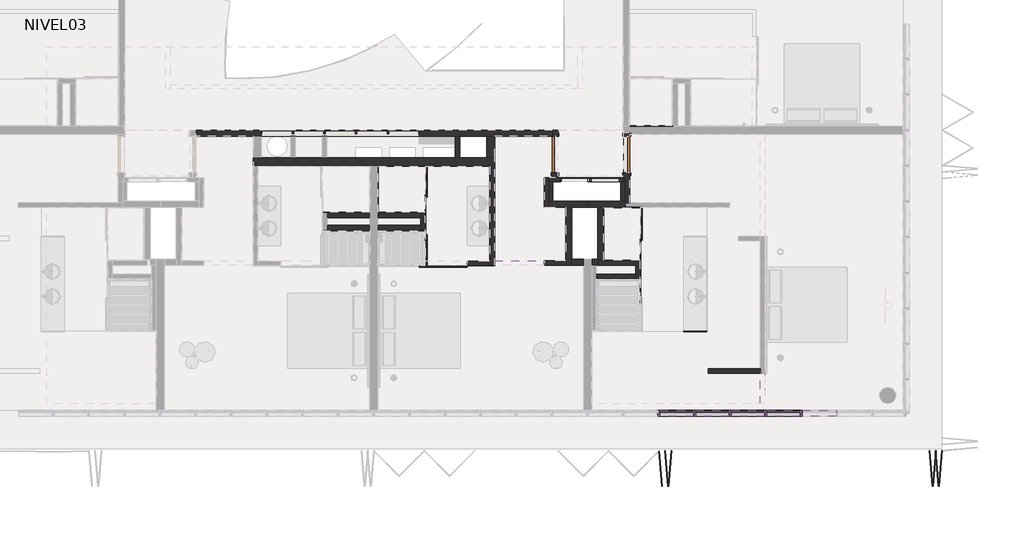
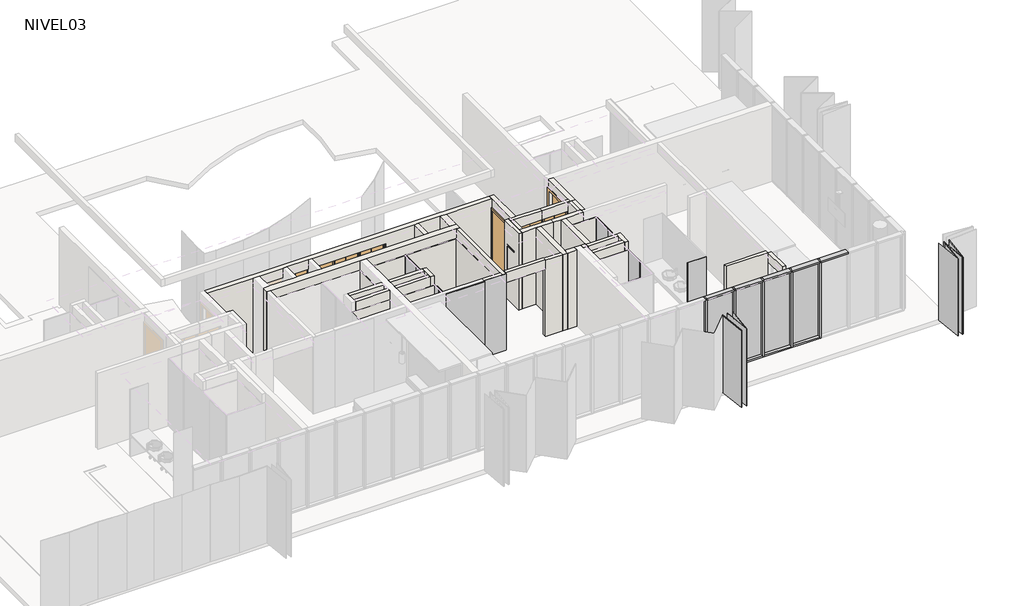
# One storey, part 3 of 8: 45 walls, 14 members, 13 plates, 8 doors.
"""IFC4 building model written with IfcOpenShell, lengths in millimetres."""

from ifc_helpers import new_model, si_unit, frame, origin, place, context, project, spatial, polyline, outline, extrude, faceted_brep, transform, mapped, element, save
from components import m_single_flush_910x_224_a4f79d59, m_single_flush_910x_224_d199ccfa, puerta_closet_shaft_75_x_232cm_9b8c6cb1, puerta_closet_shaft_75_x_232cm_f7ce9964, puerta_closet_shaft_80_x_232cm_003f94e8, rectangular_mullion_50_x_150mm_324a6438, rectangular_mullion_50_x_150mm_33c2bde1, folding_hd_folding_hd_85_4018a160, panel_corredera_cr_panel_corredera_e3ae9a5b, panel_corredera_cr_panel_corredera_0bc1c699, panel_corredera_cr_panel_corredera_7198288a, panel_corredera_cr_panel_corredera_8db39db7, system_panel_cr_shower_d400fda2, system_panel_cr_shower_4114597a, system_panel_cr_shower_ad642826, system_panel_cr_shower_33531463, system_panel_glazed_6ccc6dc1

model = new_model("IFC4")

# Units and contexts
model_context = context("Model", 3, world=origin())
ifc_project = project(units=[si_unit("LENGTHUNIT", "METRE", prefix="MILLI")], contexts=[model_context])

# Site, building, storey
site = spatial("IfcSite", under=ifc_project)
building = spatial("IfcBuilding", under=site)
storey = spatial("IfcBuildingStorey", under=building, Name="NIVEL03", Elevation=5220.0)

# Doors
placement = place(None, origin())
m_single_flush_910x_224_shape = m_single_flush_910x_224_a4f79d59(model_context)
element("IfcDoor", 1, ObjectType="M_Single-Flush : 910x 224", at=placement, inside=storey, context=model_context, shape_type="MappedRepresentation", body=[
    mapped(m_single_flush_910x_224_shape, transform((-2608.5934748, -883.5860759, 5220.0), x_axis=(0.0, 1.0, 0.0), y_axis=(-1.0, 0.0, 0.0), z_axis=(0.0, 0.0, 1.0))),
])
m_single_flush_910x_224_2_shape = m_single_flush_910x_224_d199ccfa(model_context)
element("IfcDoor", 2, ObjectType="M_Single-Flush : 910x 224", at=placement, inside=storey, context=model_context, shape_type="MappedRepresentation", body=[
    mapped(m_single_flush_910x_224_2_shape, transform((-798.5934748, -883.5860759, 5220.0), x_axis=(0.0, 1.0, 0.0), y_axis=(-1.0, 0.0, 0.0), z_axis=(0.0, 0.0, 1.0))),
])
puerta_closet_shaft_75_x_232cm_shape = puerta_closet_shaft_75_x_232cm_9b8c6cb1(model_context)
element("IfcDoor", 3, ObjectType="PUERTA CLOSET SHAFT : 75 x 232cm", at=placement, inside=storey, context=model_context, shape_type="MappedRepresentation", body=[
    mapped(puerta_closet_shaft_75_x_232cm_shape, transform((-947.061904, -1521.0860759, 5220.0), x_axis=(1.0, 0.0, 0.0), y_axis=(0.0, 1.0, 0.0), z_axis=(0.0, 0.0, 1.0))),
])
puerta_closet_shaft_75_x_232cm_2_shape = puerta_closet_shaft_75_x_232cm_f7ce9964(model_context)
element("IfcDoor", 4, ObjectType="PUERTA CLOSET SHAFT : 75 x 232cm", at=placement, inside=storey, context=model_context, shape_type="MappedRepresentation", body=[
    mapped(puerta_closet_shaft_75_x_232cm_2_shape, transform((-2480.1250457, -1521.0860759, 5220.0), x_axis=(-1.0, 0.0, 0.0), y_axis=(0.0, -1.0, 0.0), z_axis=(0.0, 0.0, 1.0))),
])
puerta_closet_shaft_80_x_232cm_shape = puerta_closet_shaft_80_x_232cm_003f94e8(model_context)
element("IfcDoor", 5, ObjectType="PUERTA CLOSET SHAFT : 80 x 232cm", at=placement, inside=storey, context=model_context, shape_type="MappedRepresentation", body=[
    mapped(puerta_closet_shaft_80_x_232cm_shape, transform((-6892.061904, -341.0860759, 5220.0), x_axis=(1.0, 0.0, 0.0), y_axis=(0.0, 1.0, 0.0), z_axis=(0.0, 0.0, 1.0))),
])
element("IfcDoor", 6, ObjectType="PUERTA CLOSET SHAFT : 80 x 232cm", at=placement, inside=storey, context=model_context, shape_type="MappedRepresentation", body=[
    mapped(puerta_closet_shaft_80_x_232cm_shape, transform((-7692.061904, -341.0860759, 5220.0), x_axis=(1.0, 0.0, 0.0), y_axis=(0.0, 1.0, 0.0), z_axis=(0.0, 0.0, 1.0))),
])
element("IfcDoor", 7, ObjectType="PUERTA CLOSET SHAFT : 80 x 232cm", at=placement, inside=storey, context=model_context, shape_type="MappedRepresentation", body=[
    mapped(puerta_closet_shaft_80_x_232cm_shape, transform((-6092.061904, -341.0860759, 5220.0), x_axis=(1.0, 0.0, 0.0), y_axis=(0.0, 1.0, 0.0), z_axis=(0.0, 0.0, 1.0))),
])
element("IfcDoor", 8, ObjectType="PUERTA CLOSET SHAFT : 80 x 232cm", at=placement, inside=storey, context=model_context, shape_type="MappedRepresentation", body=[
    mapped(puerta_closet_shaft_80_x_232cm_shape, transform((-5292.061904, -341.0860759, 5220.0), x_axis=(1.0, 0.0, 0.0), y_axis=(0.0, 1.0, 0.0), z_axis=(0.0, 0.0, 1.0))),
])

# Members
rectangular_mullion_50_x_150mm_shape = rectangular_mullion_50_x_150mm_324a6438(model_context)
element("IfcMember", 9, ObjectType="Rectangular Mullion : 50 x 150mm", at=placement, inside=storey, context=model_context, shape_type="MappedRepresentation", body=[
    mapped(rectangular_mullion_50_x_150mm_shape, transform((1841.4065252, -7416.0860759, 7770.0), x_axis=(0.0, 0.0, 1.0), y_axis=(0.0, 1.0, 0.0), z_axis=(-1.0, 0.0, 0.0))),
])
element("IfcMember", 10, ObjectType="Rectangular Mullion : 50 x 150mm", at=placement, inside=storey, context=model_context, shape_type="MappedRepresentation", body=[
    mapped(rectangular_mullion_50_x_150mm_shape, transform((941.4065252, -7416.0860759, 7770.0), x_axis=(0.0, 0.0, 1.0), y_axis=(0.0, 1.0, 0.0), z_axis=(-1.0, 0.0, 0.0))),
])
element("IfcMember", 11, ObjectType="Rectangular Mullion : 50 x 150mm", at=placement, inside=storey, context=model_context, shape_type="MappedRepresentation", body=[
    mapped(rectangular_mullion_50_x_150mm_shape, transform((41.4065252, -7416.0860759, 7770.0), x_axis=(0.0, 0.0, 1.0), y_axis=(0.0, 1.0, 0.0), z_axis=(-1.0, 0.0, 0.0))),
])
element("IfcMember", 12, ObjectType="Rectangular Mullion : 50 x 150mm", at=placement, inside=storey, context=model_context, shape_type="MappedRepresentation", body=[
    mapped(rectangular_mullion_50_x_150mm_shape, transform((3641.4065252, -7416.0860759, 7770.0), x_axis=(0.0, 0.0, 1.0), y_axis=(0.0, 1.0, 0.0), z_axis=(-1.0, 0.0, 0.0))),
])
element("IfcMember", 13, ObjectType="Rectangular Mullion : 50 x 150mm", at=placement, inside=storey, context=model_context, shape_type="MappedRepresentation", body=[
    mapped(rectangular_mullion_50_x_150mm_shape, transform((2741.4065252, -7416.0860759, 7770.0), x_axis=(0.0, 0.0, 1.0), y_axis=(0.0, 1.0, 0.0), z_axis=(-1.0, 0.0, 0.0))),
])
element("IfcMember", 14, ObjectType="Rectangular Mullion : 50 x 150mm", at=placement, inside=storey, context=model_context, shape_type="MappedRepresentation", body=[
    mapped(rectangular_mullion_50_x_150mm_shape, transform((1791.4065252, -7416.0860759, 5200.0), x_axis=(0.0, 0.0, -1.0), y_axis=(0.0, 1.0, 0.0), z_axis=(1.0, 0.0, 0.0))),
])
element("IfcMember", 15, ObjectType="Rectangular Mullion : 50 x 150mm", at=placement, inside=storey, context=model_context, shape_type="MappedRepresentation", body=[
    mapped(rectangular_mullion_50_x_150mm_shape, transform((891.4065252, -7416.0860759, 5200.0), x_axis=(0.0, 0.0, -1.0), y_axis=(0.0, 1.0, 0.0), z_axis=(1.0, 0.0, 0.0))),
])
element("IfcMember", 16, ObjectType="Rectangular Mullion : 50 x 150mm", at=placement, inside=storey, context=model_context, shape_type="MappedRepresentation", body=[
    mapped(rectangular_mullion_50_x_150mm_shape, transform((3591.4065252, -7416.0860759, 5200.0), x_axis=(0.0, 0.0, -1.0), y_axis=(0.0, 1.0, 0.0), z_axis=(1.0, 0.0, 0.0))),
])
element("IfcMember", 17, ObjectType="Rectangular Mullion : 50 x 150mm", at=placement, inside=storey, context=model_context, shape_type="MappedRepresentation", body=[
    mapped(rectangular_mullion_50_x_150mm_shape, transform((2691.4065252, -7416.0860759, 5200.0), x_axis=(0.0, 0.0, -1.0), y_axis=(0.0, 1.0, 0.0), z_axis=(1.0, 0.0, 0.0))),
])
rectangular_mullion_50_x_150mm_2_shape = rectangular_mullion_50_x_150mm_33c2bde1(model_context)
element("IfcMember", 18, ObjectType="Rectangular Mullion : 50 x 150mm", at=placement, inside=storey, context=model_context, shape_type="MappedRepresentation", body=[
    mapped(rectangular_mullion_50_x_150mm_2_shape, transform((1816.4065252, -7416.0860759, 5200.0), x_axis=(-1.0, 0.0, 0.0), y_axis=(0.0, 1.0, 0.0), z_axis=(0.0, 0.0, -1.0))),
])
element("IfcMember", 19, ObjectType="Rectangular Mullion : 50 x 150mm", at=placement, inside=storey, context=model_context, shape_type="MappedRepresentation", body=[
    mapped(rectangular_mullion_50_x_150mm_2_shape, transform((916.4065252, -7416.0860759, 5200.0), x_axis=(-1.0, 0.0, 0.0), y_axis=(0.0, 1.0, 0.0), z_axis=(0.0, 0.0, -1.0))),
])
element("IfcMember", 20, ObjectType="Rectangular Mullion : 50 x 150mm", at=placement, inside=storey, context=model_context, shape_type="MappedRepresentation", body=[
    mapped(rectangular_mullion_50_x_150mm_2_shape, transform((16.4065252, -7416.0860759, 5200.0), x_axis=(-1.0, 0.0, 0.0), y_axis=(0.0, 1.0, 0.0), z_axis=(0.0, 0.0, -1.0))),
])
element("IfcMember", 21, ObjectType="Rectangular Mullion : 50 x 150mm", at=placement, inside=storey, context=model_context, shape_type="MappedRepresentation", body=[
    mapped(rectangular_mullion_50_x_150mm_2_shape, transform((2716.4065252, -7416.0860759, 5200.0), x_axis=(-1.0, 0.0, 0.0), y_axis=(0.0, 1.0, 0.0), z_axis=(0.0, 0.0, -1.0))),
])
element("IfcMember", 22, ObjectType="Rectangular Mullion : 50 x 150mm", at=placement, inside=storey, context=model_context, shape_type="MappedRepresentation", body=[
    mapped(rectangular_mullion_50_x_150mm_2_shape, transform((3616.4065252, -7416.0860759, 5200.0), x_axis=(-1.0, 0.0, 0.0), y_axis=(0.0, 1.0, 0.0), z_axis=(0.0, 0.0, -1.0))),
])

# Plates
folding_hd_folding_hd_85_shape = folding_hd_folding_hd_85_4018a160(model_context)
element("IfcPlate", 23, ObjectType="FOLDING HD : FOLDING HD 85", at=placement, inside=storey, context=model_context, shape_type="MappedRepresentation", body=[
    mapped(folding_hd_folding_hd_85_shape, transform((3591.4065252, -8366.0860759, 5200.0), x_axis=(-1.0, 0.0, 0.0), y_axis=(0.0, -1.0, 0.0), z_axis=(0.0, 0.0, 1.0))),
])
panel_corredera_cr_panel_corredera_shape = panel_corredera_cr_panel_corredera_e3ae9a5b(model_context)
element("IfcPlate", 24, ObjectType="PANEL CORREDERA : CR_PANEL CORREDERA", at=placement, inside=storey, context=model_context, shape_type="MappedRepresentation", body=[
    mapped(panel_corredera_cr_panel_corredera_shape, transform((-453.5434748, -2560.8259695, 5220.0), x_axis=(0.0, -1.0, 0.0), y_axis=(1.0, 0.0, 0.0), z_axis=(0.0, 0.0, 1.0))),
])
panel_corredera_cr_panel_corredera_2_shape = panel_corredera_cr_panel_corredera_0bc1c699(model_context)
element("IfcPlate", 25, ObjectType="PANEL CORREDERA : CR_PANEL CORREDERA", at=placement, inside=storey, context=model_context, shape_type="MappedRepresentation", body=[
    mapped(panel_corredera_cr_panel_corredera_2_shape, transform((-5883.5921504, -3371.0862189, 5220.0), x_axis=(0.0, 1.0, 0.0), y_axis=(-1.0, 0.0, 0.0), z_axis=(0.0, 0.0, 1.0))),
])
panel_corredera_cr_panel_corredera_3_shape = panel_corredera_cr_panel_corredera_7198288a(model_context)
element("IfcPlate", 26, ObjectType="PANEL CORREDERA : CR_PANEL CORREDERA", at=placement, inside=storey, context=model_context, shape_type="MappedRepresentation", body=[
    mapped(panel_corredera_cr_panel_corredera_3_shape, transform((-5883.5921504, -1491.0860759, 5220.0), x_axis=(0.0, -1.0, 0.0), y_axis=(1.0, 0.0, 0.0), z_axis=(0.0, 0.0, 1.0))),
])
panel_corredera_cr_panel_corredera_4_shape = panel_corredera_cr_panel_corredera_8db39db7(model_context)
element("IfcPlate", 27, ObjectType="PANEL CORREDERA : CR_PANEL CORREDERA", at=placement, inside=storey, context=model_context, shape_type="MappedRepresentation", body=[
    mapped(panel_corredera_cr_panel_corredera_4_shape, transform((-5353.5934748, -3686.0862189, 5220.0), x_axis=(-1.0, 0.0, 0.0), y_axis=(0.0, -1.0, 0.0), z_axis=(0.0, 0.0, 1.0))),
])
system_panel_cr_shower_shape = system_panel_cr_shower_d400fda2(model_context)
element("IfcPlate", 28, ObjectType="System Panel : CR-SHOWER", at=placement, inside=storey, context=model_context, shape_type="MappedRepresentation", body=[
    mapped(system_panel_cr_shower_shape, transform((-4478.5934748, -3686.0862189, 5220.0), x_axis=(1.0, 0.0, 0.0), y_axis=(0.0, 1.0, 0.0), z_axis=(0.0, 0.0, 1.0))),
])
system_panel_cr_shower_2_shape = system_panel_cr_shower_4114597a(model_context)
element("IfcPlate", 29, ObjectType="System Panel : CR-SHOWER", at=placement, inside=storey, context=model_context, shape_type="MappedRepresentation", body=[
    mapped(system_panel_cr_shower_2_shape, transform((936.4065252, -5348.5862189, 5220.0), x_axis=(1.0, 0.0, 0.0), y_axis=(0.0, 1.0, 0.0), z_axis=(0.0, 0.0, 1.0))),
])
system_panel_cr_shower_3_shape = system_panel_cr_shower_ad642826(model_context)
element("IfcPlate", 30, ObjectType="System Panel : CR-SHOWER", at=placement, inside=storey, context=model_context, shape_type="MappedRepresentation", body=[
    mapped(system_panel_cr_shower_3_shape, transform((-453.5434748, -3776.2845441, 5220.0), x_axis=(0.0, 1.0, 0.0), y_axis=(-1.0, 0.0, 0.0), z_axis=(0.0, 0.0, 1.0))),
])
system_panel_cr_shower_4_shape = system_panel_cr_shower_33531463(model_context)
element("IfcPlate", 31, ObjectType="System Panel : CR-SHOWER", at=placement, inside=storey, context=model_context, shape_type="MappedRepresentation", body=[
    mapped(system_panel_cr_shower_4_shape, transform((-5883.5921504, -2436.0861474, 5220.0), x_axis=(0.0, 1.0, 0.0), y_axis=(-1.0, 0.0, 0.0), z_axis=(0.0, 0.0, 1.0))),
])
system_panel_glazed_shape = system_panel_glazed_6ccc6dc1(model_context)
element("IfcPlate", 32, ObjectType="System Panel : Glazed", at=placement, inside=storey, context=model_context, shape_type="MappedRepresentation", body=[
    mapped(system_panel_glazed_shape, transform((1366.4065252, -7416.0860759, 5250.0), x_axis=(-1.0, 0.0, 0.0), y_axis=(0.0, -1.0, 0.0), z_axis=(0.0, 0.0, 1.0))),
])
element("IfcPlate", 33, ObjectType="System Panel : Glazed", at=placement, inside=storey, context=model_context, shape_type="MappedRepresentation", body=[
    mapped(system_panel_glazed_shape, transform((466.4065252, -7416.0860759, 5250.0), x_axis=(-1.0, 0.0, 0.0), y_axis=(0.0, -1.0, 0.0), z_axis=(0.0, 0.0, 1.0))),
])
element("IfcPlate", 34, ObjectType="System Panel : Glazed", at=placement, inside=storey, context=model_context, shape_type="MappedRepresentation", body=[
    mapped(system_panel_glazed_shape, transform((2266.4065252, -7416.0860759, 5250.0), x_axis=(-1.0, 0.0, 0.0), y_axis=(0.0, -1.0, 0.0), z_axis=(0.0, 0.0, 1.0))),
])
element("IfcPlate", 35, ObjectType="System Panel : Glazed", at=placement, inside=storey, context=model_context, shape_type="MappedRepresentation", body=[
    mapped(system_panel_glazed_shape, transform((3166.4065252, -7416.0860759, 5250.0), x_axis=(-1.0, 0.0, 0.0), y_axis=(0.0, -1.0, 0.0), z_axis=(0.0, 0.0, 1.0))),
])

# Walls
element("IfcWall", 36, ObjectType="SCV.TI.A.110.090.143.47.1", at=placement, inside=storey, context=model_context, shape_type="SweptSolid", body=[
    extrude(outline(polyline([(-2333.5934748, -3681.0862189), (-2883.5934748, -3681.0862189), (-2883.5934748, -3571.0862189), (-2333.5934748, -3571.0862189), (-2333.5934748, -3681.0862189)])), frame((0.0, 0.0, 5220.0), z_axis=(0.0, 0.0, 1.0), x_axis=(1.0, 0.0, 0.0)), (0.0, 0.0, 1.0), 2550.0),
])
element("IfcWall", 37, ObjectType="SCV.TI.A.110.090.143.47.1", at=placement, inside=storey, context=model_context, shape_type="Brep", body=[
    faceted_brep([(-1778.029983, -1576.0860759, 7770.0), (-2773.5934748, -1576.0860759, 7770.0), (-2773.5934748, -1576.0860759, 5220.0), (-2463.5934748, -1576.0860759, 5220.0), (-2463.5934748, -1576.0860759, 7460.0), (-1778.029983, -1576.0860759, 7460.0), (-2773.5934748, -1466.0860759, 7770.0), (-2683.5934748, -1466.0860759, 7770.0), (-2533.5934748, -1466.0860759, 7770.0), (-1778.029983, -1466.0860759, 7770.0), (-1778.029983, -1466.0860759, 7460.0), (-2463.5934748, -1466.0860759, 7460.0), (-2463.5934748, -1466.0860759, 5220.0), (-2533.5934748, -1466.0860759, 5220.0), (-2683.5934748, -1466.0860759, 5220.0), (-2773.5934748, -1466.0860759, 5220.0)], [[[0, 1, 2, 3, 4, 5]], [[6, 7, 8, 9, 10, 11, 12, 13, 14, 15]], [[2, 15, 14, 13, 12, 3]], [[9, 0, 5, 10]], [[1, 0, 9, 8, 7, 6]], [[4, 11, 10, 5]], [[11, 4, 3, 12]], [[2, 1, 6, 15]]]),
])
element("IfcWall", 38, ObjectType="SCV.TI.A.150.120.212.47.1", at=placement, inside=storey, context=model_context, shape_type="Brep", body=[
    faceted_brep([(-2683.5934748, -1466.0860759, 7770.0), (-2683.5934748, -416.0860759, 7770.0), (-2683.5934748, -266.0860759, 7770.0), (-2683.5934748, -266.0860759, 5220.0), (-2683.5934748, -426.0860759, 5220.0), (-2683.5934748, -426.0860759, 7420.0), (-2683.5934748, -1341.0860759, 7420.0), (-2683.5934748, -1341.0860759, 5220.0), (-2683.5934748, -1466.0860759, 5220.0), (-2533.5934748, -266.0860759, 7770.0), (-2533.5934748, -1466.0860759, 7770.0), (-2533.5934748, -1466.0860759, 5220.0), (-2533.5934748, -1341.0860759, 5220.0), (-2533.5934748, -1341.0860759, 7420.0), (-2533.5934748, -426.0860759, 7420.0), (-2533.5934748, -426.0860759, 5220.0), (-2533.5934748, -266.0860759, 5220.0)], [[[0, 1, 2, 3, 4, 5, 6, 7, 8]], [[9, 10, 11, 12, 13, 14, 15, 16]], [[3, 16, 15, 4]], [[11, 8, 7, 12]], [[2, 1, 0, 10, 9]], [[5, 14, 13, 6]], [[6, 13, 12, 7]], [[14, 5, 4, 15]], [[3, 2, 9, 16]], [[0, 8, 11, 10]]]),
])
element("IfcWall", 39, ObjectType="SCV.TI.A.110.090.143.47.1", at=placement, inside=storey, context=model_context, shape_type="Brep", body=[
    faceted_brep([(-4243.5934748, -1166.0860759, 5200.0), (-4243.5934748, -3686.0862189, 5200.0), (-4243.5934748, -3686.0862189, 5220.0), (-4243.5934748, -3686.0862189, 7770.0), (-4243.5934748, -3576.0862189, 7770.0), (-4243.5934748, -1166.0860759, 7770.0), (-4133.5934748, -1166.0860759, 5200.0), (-4133.5934748, -1166.0860759, 7770.0), (-4133.5934748, -3686.0862189, 7770.0), (-4133.5934748, -3686.0862189, 7470.0), (-4133.5934748, -3686.0862189, 5200.0)], [[[0, 1, 2, 3, 4, 5]], [[6, 7, 8, 9, 10]], [[1, 0, 6, 10]], [[5, 4, 3, 8, 7]], [[1, 10, 9, 8, 3, 2]], [[0, 5, 7, 6]]]),
])
element("IfcWall", 40, ObjectType="SCV.TI.A.150.120.212.47.1", at=placement, inside=storey, context=model_context, shape_type="Brep", body=[
    faceted_brep([(-11683.5934748, -416.0860759, 5200.0), (-10233.5934748, -416.0860759, 5200.0), (-10033.5934748, -416.0860759, 5200.0), (-9283.5934748, -416.0860759, 5200.0), (-9173.5934748, -416.0860759, 5200.0), (-8483.5934748, -416.0860759, 5200.0), (-8373.5934748, -416.0860759, 5200.0), (-5133.5934748, -416.0860759, 5200.0), (-5013.5934748, -416.0860759, 5200.0), (-4333.5934748, -416.0860759, 5200.0), (-4133.5934748, -416.0860759, 5200.0), (-2683.5934748, -416.0860759, 5200.0), (-2683.5934748, -416.0860759, 7770.0), (-4133.5934748, -416.0860759, 7770.0), (-4333.5934748, -416.0860759, 7770.0), (-5013.5934748, -416.0860759, 7770.0), (-5133.5934748, -416.0860759, 7770.0), (-8373.5934748, -416.0860759, 7770.0), (-8483.5934748, -416.0860759, 7770.0), (-9173.5934748, -416.0860759, 7770.0), (-9283.5934748, -416.0860759, 7770.0), (-10033.5934748, -416.0860759, 7770.0), (-10233.5934748, -416.0860759, 7770.0), (-11683.5934748, -416.0860759, 7770.0), (-6033.5934748, -416.0860759, 5220.0), (-10033.5934748, -416.0860759, 5220.0), (-10033.5934748, -416.0860759, 7440.0), (-6033.5934748, -416.0860759, 7440.0), (-2683.5934748, -266.0860759, 5200.0), (-11683.5934748, -266.0860759, 5200.0), (-11683.5934748, -266.0860759, 5220.0), (-11683.5934748, -266.0860759, 7770.0), (-2683.5934748, -266.0860759, 7770.0), (-2683.5934748, -266.0860759, 5220.0), (-6033.5934748, -266.0860759, 7440.0), (-10033.5934748, -266.0860759, 7440.0), (-10033.5934748, -266.0860759, 5220.0), (-6033.5934748, -266.0860759, 5220.0)], [[[0, 1, 2, 3, 4, 5, 6, 7, 8, 9, 10, 11, 12, 13, 14, 15, 16, 17, 18, 19, 20, 21, 22, 23], [24, 25, 26, 27]], [[28, 29, 30, 31, 32, 33], [34, 35, 36, 37]], [[11, 10, 9, 8, 7, 6, 5, 4, 3, 2, 1, 0, 29, 28]], [[23, 22, 21, 20, 19, 18, 17, 16, 15, 14, 13, 12, 32, 31]], [[26, 35, 34, 27]], [[36, 25, 24, 37]], [[25, 36, 35, 26]], [[37, 24, 27, 34]], [[12, 11, 28, 33, 32]], [[0, 23, 31, 30, 29]]]),
])
element("IfcWall", 41, ObjectType="SCV.TI.A.150.120.212.47.1", at=placement, inside=storey, context=model_context, shape_type="Brep", body=[
    faceted_brep([(-2773.5934748, -2216.0860759, 5220.0), (-2333.5934748, -2216.0860759, 5220.0), (-2183.5934748, -2216.0860759, 5220.0), (-1783.5934748, -2216.0860759, 5220.0), (-1783.5934748, -2216.0860759, 7770.0), (-2183.5934748, -2216.0860759, 7770.0), (-2333.5934748, -2216.0860759, 7770.0), (-2773.5934748, -2216.0860759, 7770.0), (-2773.5934748, -2066.0860759, 5220.0), (-2773.5934748, -2066.0860759, 7770.0), (-1783.5934748, -2066.0860759, 7770.0), (-1783.5934748, -2066.0860759, 5220.0)], [[[0, 1, 2, 3, 4, 5, 6, 7]], [[8, 9, 10, 11]], [[3, 2, 1, 0, 8, 11]], [[4, 3, 11, 10]], [[7, 6, 5, 4, 10, 9]], [[0, 7, 9, 8]]]),
])
element("IfcWall", 42, ObjectType="SCV.TI.A.110.090.143.47.1", at=placement, inside=storey, context=model_context, shape_type="Brep", body=[
    faceted_brep([(-2883.5934748, -1466.0860759, 5200.0), (-2883.5934748, -2216.0860759, 5200.0), (-2883.5934748, -2216.0860759, 7770.0), (-2883.5934748, -1466.0860759, 7770.0), (-2773.5934748, -1466.0860759, 5200.0), (-2773.5934748, -1466.0860759, 5220.0), (-2773.5934748, -1466.0860759, 7770.0), (-2773.5934748, -1576.0860759, 7770.0), (-2773.5934748, -2066.0860759, 7770.0), (-2773.5934748, -2216.0860759, 7770.0), (-2773.5934748, -2216.0860759, 5220.0), (-2773.5934748, -2216.0860759, 5200.0)], [[[0, 1, 2, 3]], [[4, 5, 6, 7, 8, 9, 10, 11]], [[1, 0, 4, 11]], [[3, 2, 9, 8, 7, 6]], [[2, 1, 11, 10, 9]], [[0, 3, 6, 5, 4]]]),
])
element("IfcWall", 43, ObjectType="SCV.TI.A.120.120.122.46.2", at=placement, inside=storey, context=model_context, shape_type="SweptSolid", body=[
    extrude(outline(polyline([(-6003.6822103, -2796.0860759), (-7083.5934748, -2796.0860759), (-7083.5934748, -2676.0860759), (-6003.6822103, -2676.0860759), (-6003.6822103, -2796.0860759)])), frame((0.0, 0.0, 5220.0), z_axis=(0.0, 0.0, 1.0), x_axis=(1.0, 0.0, 0.0)), (0.0, 0.0, 1.0), 2550.0),
])
element("IfcWall", 44, ObjectType="SCV.TI.A.120.120.122.46.2", at=placement, inside=storey, context=model_context, shape_type="Brep", body=[
    faceted_brep([(-5883.6822103, -2796.0860759, 5220.0), (-5883.6822103, -2356.0860759, 5220.0), (-5883.6822103, -2356.0860759, 7770.0), (-5883.6822103, -2796.0860759, 7770.0), (-6003.6822103, -2796.0860759, 5220.0), (-6003.6822103, -2796.0860759, 7770.0), (-6003.6822103, -2676.0860759, 7770.0), (-6003.6822103, -2476.0860759, 7770.0), (-6003.6822103, -2356.0860759, 7770.0), (-6003.6822103, -2356.0860759, 5220.0), (-6003.6822103, -2476.0860759, 5220.0), (-6003.6822103, -2676.0860759, 5220.0)], [[[0, 1, 2, 3]], [[4, 5, 6, 7, 8, 9, 10, 11]], [[1, 0, 4, 11, 10, 9]], [[3, 2, 8, 7, 6, 5]], [[2, 1, 9, 8]], [[0, 3, 5, 4]]]),
])
element("IfcWall", 45, ObjectType="SCV.TI.A.120.120.122.46.2", at=placement, inside=storey, context=model_context, shape_type="SweptSolid", body=[
    extrude(outline(polyline([(-7083.5934748, -2356.0860759), (-6003.6822103, -2356.0860759), (-6003.6822103, -2476.0860759), (-7083.5934748, -2476.0860759), (-7083.5934748, -2356.0860759)])), frame((0.0, 0.0, 5220.0), z_axis=(0.0, 0.0, 1.0), x_axis=(1.0, 0.0, 0.0)), (0.0, 0.0, 1.0), 2550.0),
])
element("IfcWall", 46, ObjectType="SCV.TI.A.110.090.143.47.1", at=placement, inside=storey, context=model_context, shape_type="Brep", body=[
    faceted_brep([(-4823.5934748, -3686.0862189, 5220.0), (-4243.5934748, -3686.0862189, 5220.0), (-4243.5934748, -3686.0862189, 7770.0), (-4823.5934748, -3686.0862189, 7770.0), (-4823.5934748, -3686.0862189, 7470.0), (-4823.5934748, -3576.0862189, 5220.0), (-4823.5934748, -3576.0862189, 7770.0), (-4243.5934748, -3576.0862189, 7770.0), (-4243.5934748, -3576.0862189, 5220.0)], [[[0, 1, 2, 3, 4]], [[5, 6, 7, 8]], [[1, 0, 5, 8]], [[3, 2, 7, 6]], [[0, 4, 3, 6, 5]], [[1, 8, 7, 2]]]),
])
element("IfcWall", 47, ObjectType="REV-PORCELANATO_60*60", at=placement, inside=storey, context=model_context, shape_type="Brep", body=[
    faceted_brep([(-4823.5934748, -3596.0862189, 5220.0), (-4243.5934748, -3596.0862189, 5220.0), (-4243.5934748, -3596.0862189, 7460.0), (-4823.5934748, -3596.0862189, 7460.0), (-4823.5934748, -3586.0862189, 5220.0), (-4823.5934748, -3586.0862189, 7460.0), (-4253.5934748, -3586.0862189, 7460.0), (-4243.5934748, -3586.0862189, 7460.0), (-4243.5934748, -3586.0862189, 5220.0), (-4253.5934748, -3586.0862189, 5220.0)], [[[0, 1, 2, 3]], [[4, 5, 6, 7, 8, 9]], [[1, 0, 4, 9, 8]], [[3, 2, 7, 6, 5]], [[0, 3, 5, 4]], [[2, 1, 8, 7]]]),
])
element("IfcWall", 48, ObjectType="REV-PORCELANATO_60*60", at=placement, inside=storey, context=model_context, shape_type="Brep", body=[
    faceted_brep([(-4243.5934748, -3586.0862189, 5220.0), (-4243.5934748, -1166.0860759, 5220.0), (-4243.5934748, -1166.0860759, 7460.0), (-4243.5934748, -3586.0862189, 7460.0), (-4253.5934748, -3586.0862189, 5220.0), (-4253.5934748, -3586.0862189, 7460.0), (-4253.5934748, -1176.0860759, 7460.0), (-4253.5934748, -1166.0860759, 7460.0), (-4253.5934748, -1166.0860759, 5220.0), (-4253.5934748, -1176.0860759, 5220.0)], [[[0, 1, 2, 3]], [[4, 5, 6, 7, 8, 9]], [[1, 0, 4, 9, 8]], [[3, 2, 7, 6, 5]], [[2, 1, 8, 7]], [[0, 3, 5, 4]]]),
])
element("IfcWall", 49, ObjectType="REV-PORCELANATO_60*60", at=placement, inside=storey, context=model_context, shape_type="Brep", body=[
    faceted_brep([(-4253.5934748, -1166.0860759, 5220.0), (-7083.5934748, -1166.0860759, 5220.0), (-7083.5934748, -1166.0860759, 7460.0), (-4253.5934748, -1166.0860759, 7460.0), (-4253.5934748, -1176.0860759, 5220.0), (-4253.5934748, -1176.0860759, 7460.0), (-7073.5934748, -1176.0860759, 7460.0), (-7083.5934748, -1176.0860759, 7460.0), (-7083.5934748, -1176.0860759, 5220.0), (-7073.5934748, -1176.0860759, 5220.0)], [[[0, 1, 2, 3]], [[4, 5, 6, 7, 8, 9]], [[1, 0, 4, 9, 8]], [[3, 2, 7, 6, 5]], [[2, 1, 8, 7]], [[0, 3, 5, 4]]]),
])
element("IfcWall", 50, ObjectType="REV-PORCELANATO_60*60", at=placement, inside=storey, context=model_context, shape_type="Brep", body=[
    faceted_brep([(-7083.5934748, -1176.0860759, 5220.0), (-7083.5934748, -2356.0860759, 5220.0), (-7083.5934748, -2356.0860759, 7460.0), (-7083.5934748, -1176.0860759, 7460.0), (-7073.5934748, -1176.0860759, 5220.0), (-7073.5934748, -1176.0860759, 7460.0), (-7073.5934748, -2346.0860759, 7460.0), (-7073.5934748, -2356.0860759, 7460.0), (-7073.5934748, -2356.0860759, 5220.0), (-7073.5934748, -2346.0860759, 5220.0)], [[[0, 1, 2, 3]], [[4, 5, 6, 7, 8, 9]], [[1, 0, 4, 9, 8]], [[3, 2, 7, 6, 5]], [[2, 1, 8, 7]], [[0, 3, 5, 4]]]),
])
element("IfcWall", 51, ObjectType="REV-PORCELANATO_60*60", at=placement, inside=storey, context=model_context, shape_type="SweptSolid", body=[
    extrude(outline(polyline([(-5883.5921504, -2356.0860759), (-7073.5934748, -2356.0860759), (-7073.5934748, -2346.0860759), (-5883.5921504, -2346.0860759), (-5883.5921504, -2356.0860759)])), frame((0.0, 0.0, 5220.0), z_axis=(0.0, 0.0, 1.0), x_axis=(1.0, 0.0, 0.0)), (0.0, 0.0, 1.0), 2240.0),
])
element("IfcWall", 52, ObjectType="REV-PORCELANATO_60*60", at=placement, inside=storey, context=model_context, shape_type="Brep", body=[
    faceted_brep([(-5883.5921504, -2796.0860759, 5220.0), (-7083.5934748, -2796.0860759, 5220.0), (-7083.5934748, -2796.0860759, 7460.0), (-5883.5921504, -2796.0860759, 7460.0), (-5883.5921504, -2806.0860759, 5220.0), (-5883.5921504, -2806.0860759, 7460.0), (-7073.5934748, -2806.0860759, 7460.0), (-7083.5934748, -2806.0860759, 7460.0), (-7083.5934748, -2806.0860759, 5220.0), (-7073.5934748, -2806.0860759, 5220.0)], [[[0, 1, 2, 3]], [[4, 5, 6, 7, 8, 9]], [[1, 0, 4, 9, 8]], [[3, 2, 7, 6, 5]], [[0, 3, 5, 4]], [[2, 1, 8, 7]]]),
])
element("IfcWall", 53, ObjectType="SCV.TI.A.120.120.122.46.2", at=placement, inside=storey, context=model_context, shape_type="SweptSolid", body=[
    extrude(outline(polyline([(-8363.5047394, -2676.0860759), (-7283.5934748, -2676.0860759), (-7283.5934748, -2796.0860759), (-8363.5047394, -2796.0860759), (-8363.5047394, -2676.0860759)])), frame((0.0, 0.0, 5220.0), z_axis=(0.0, 0.0, 1.0), x_axis=(1.0, 0.0, 0.0)), (0.0, 0.0, 1.0), 2550.0),
])
element("IfcWall", 54, ObjectType="SCV.TI.A.120.120.122.46.2", at=placement, inside=storey, context=model_context, shape_type="SweptSolid", body=[
    extrude(outline(polyline([(-7283.5934748, -2476.0860759), (-8363.5047394, -2476.0860759), (-8363.5047394, -2356.0860759), (-7283.5934748, -2356.0860759), (-7283.5934748, -2476.0860759)])), frame((0.0, 0.0, 5220.0), z_axis=(0.0, 0.0, 1.0), x_axis=(1.0, 0.0, 0.0)), (0.0, 0.0, 1.0), 2550.0),
])
element("IfcWall", 55, ObjectType="REV-PORCELANATO_60*60", at=placement, inside=storey, context=model_context, shape_type="Brep", body=[
    faceted_brep([(-7293.5934748, -1176.0860759, 5220.0), (-7293.5934748, -2346.0860759, 5220.0), (-7293.5934748, -2356.0860759, 5220.0), (-7293.5934748, -2356.0860759, 7460.0), (-7293.5934748, -2346.0860759, 7460.0), (-7293.5934748, -1176.0860759, 7460.0), (-7283.5934748, -1176.0860759, 5220.0), (-7283.5934748, -1176.0860759, 7460.0), (-7283.5934748, -2356.0860759, 7460.0), (-7283.5934748, -2356.0860759, 5220.0)], [[[0, 1, 2, 3, 4, 5]], [[6, 7, 8, 9]], [[2, 1, 0, 6, 9]], [[5, 4, 3, 8, 7]], [[3, 2, 9, 8]], [[0, 5, 7, 6]]]),
])
element("IfcWall", 56, ObjectType="REV-PORCELANATO_60*60", at=placement, inside=storey, context=model_context, shape_type="SweptSolid", body=[
    extrude(outline(polyline([(-8483.5947993, -2346.0860759), (-7293.5934748, -2346.0860759), (-7293.5934748, -2356.0860759), (-8483.5947993, -2356.0860759), (-8483.5947993, -2346.0860759)])), frame((0.0, 0.0, 5220.0), z_axis=(0.0, 0.0, 1.0), x_axis=(1.0, 0.0, 0.0)), (0.0, 0.0, 1.0), 2240.0),
])
element("IfcWall", 57, ObjectType="REV-PORCELANATO_60*60", at=placement, inside=storey, context=model_context, shape_type="Brep", body=[
    faceted_brep([(-8483.5947993, -2806.0860759, 5220.0), (-7293.5934748, -2806.0860759, 5220.0), (-7283.5934748, -2806.0860759, 5220.0), (-7283.5934748, -2806.0860759, 7460.0), (-7293.5934748, -2806.0860759, 7460.0), (-8483.5947993, -2806.0860759, 7460.0), (-8483.5947993, -2796.0860759, 5220.0), (-8483.5947993, -2796.0860759, 7460.0), (-7283.5934748, -2796.0860759, 7460.0), (-7283.5934748, -2796.0860759, 5220.0)], [[[0, 1, 2, 3, 4, 5]], [[6, 7, 8, 9]], [[2, 1, 0, 6, 9]], [[5, 4, 3, 8, 7]], [[0, 5, 7, 6]], [[3, 2, 9, 8]]]),
])
element("IfcWall", 58, ObjectType="SCV.TI.A.120.120.122.46.2", at=placement, inside=storey, context=model_context, shape_type="SweptSolid", body=[
    extrude(outline(polyline([(-573.5934748, -4026.0862189), (-1563.5934748, -4026.0862189), (-1563.5934748, -3906.0862189), (-573.5934748, -3906.0862189), (-573.5934748, -4026.0862189)])), frame((0.0, 0.0, 5200.0), z_axis=(0.0, 0.0, 1.0), x_axis=(1.0, 0.0, 0.0)), (0.0, 0.0, 1.0), 2570.0),
])
element("IfcWall", 59, ObjectType="SCV.TI.A.120.120.122.46.2", at=placement, inside=storey, context=model_context, shape_type="Brep", body=[
    faceted_brep([(-453.5934748, -4026.0862189, 5200.0), (-453.5934748, -3566.0862189, 5200.0), (-453.5934748, -3566.0862189, 7770.0), (-453.5934748, -4026.0862189, 7770.0), (-573.5934748, -4026.0862189, 5200.0), (-573.5934748, -4026.0862189, 7770.0), (-573.5934748, -3906.0862189, 7770.0), (-573.5934748, -3686.0862189, 7770.0), (-573.5934748, -3566.0862189, 7770.0), (-573.5934748, -3566.0862189, 5200.0), (-573.5934748, -3686.0862189, 5200.0), (-573.5934748, -3906.0862189, 5200.0)], [[[0, 1, 2, 3]], [[4, 5, 6, 7, 8, 9, 10, 11]], [[1, 0, 4, 11, 10, 9]], [[3, 2, 8, 7, 6, 5]], [[2, 1, 9, 8]], [[0, 3, 5, 4]]]),
])
element("IfcWall", 60, ObjectType="SCV.TI.A.120.120.122.46.2", at=placement, inside=storey, context=model_context, shape_type="Brep", body=[
    faceted_brep([(-573.5934748, -3566.0862189, 5200.0), (-1383.5934748, -3566.0862189, 5200.0), (-1533.5934748, -3566.0862189, 5200.0), (-1533.5934748, -3566.0862189, 7770.0), (-1383.5934748, -3566.0862189, 7770.0), (-573.5934748, -3566.0862189, 7770.0), (-573.5934748, -3686.0862189, 5200.0), (-573.5934748, -3686.0862189, 7770.0), (-1533.5934748, -3686.0862189, 7770.0), (-1533.5934748, -3686.0862189, 5200.0)], [[[0, 1, 2, 3, 4, 5]], [[6, 7, 8, 9]], [[2, 1, 0, 6, 9]], [[5, 4, 3, 8, 7]], [[0, 5, 7, 6]], [[3, 2, 9, 8]]]),
])
element("IfcWall", 61, ObjectType="SCV.TI.A.110.090.143.47.1", at=placement, inside=storey, context=model_context, shape_type="Brep", body=[
    faceted_brep([(-873.5934748, -1466.0860759, 5200.0), (-1778.029983, -1466.0860759, 5200.0), (-1778.029983, -1466.0860759, 5220.0), (-963.5934748, -1466.0860759, 5220.0), (-963.5934748, -1466.0860759, 7460.0), (-1778.029983, -1466.0860759, 7460.0), (-1778.029983, -1466.0860759, 7770.0), (-873.5934748, -1466.0860759, 7770.0), (-1778.029983, -1576.0860759, 5200.0), (-943.5934748, -1576.0860759, 5200.0), (-873.5934748, -1576.0860759, 5200.0), (-873.5934748, -1576.0860759, 7770.0), (-943.5934748, -1576.0860759, 7770.0), (-1778.029983, -1576.0860759, 7770.0), (-1778.029983, -1576.0860759, 7460.0), (-963.5934748, -1576.0860759, 7460.0), (-963.5934748, -1576.0860759, 5220.0), (-1778.029983, -1576.0860759, 5220.0)], [[[0, 1, 2, 3, 4, 5, 6, 7]], [[8, 9, 10, 11, 12, 13, 14, 15, 16, 17]], [[1, 0, 10, 9, 8]], [[1, 8, 17, 2]], [[13, 6, 5, 14]], [[7, 6, 13, 12, 11]], [[4, 15, 14, 5]], [[16, 3, 2, 17]], [[3, 16, 15, 4]], [[0, 7, 11, 10]]]),
])
element("IfcWall", 62, ObjectType="SCV.TI.A.150.120.212.47.1", at=placement, inside=storey, context=model_context, shape_type="Brep", body=[
    faceted_brep([(-873.5934748, -366.0860759, 5200.0), (-873.5934748, -1466.0860759, 5200.0), (-873.5934748, -1576.0860759, 5200.0), (-873.5934748, -1576.0860759, 7770.0), (-873.5934748, -1466.0860759, 7770.0), (-873.5934748, -366.0860759, 7770.0), (-873.5934748, -1341.0860759, 5220.0), (-873.5934748, -426.0860759, 5220.0), (-873.5934748, -426.0860759, 7420.0), (-873.5934748, -1341.0860759, 7420.0), (-723.5934748, -1576.0860759, 5200.0), (-723.5934748, -366.0860759, 5200.0), (-723.5934748, -366.0860759, 7770.0), (-723.5934748, -1576.0860759, 7770.0), (-723.5934748, -426.0860759, 5220.0), (-723.5934748, -1341.0860759, 5220.0), (-723.5934748, -1341.0860759, 7420.0), (-723.5934748, -426.0860759, 7420.0), (-833.5934748, -1576.0860759, 5200.0), (-833.5934748, -1576.0860759, 7770.0)], [[[0, 1, 2, 3, 4, 5], [6, 7, 8, 9]], [[10, 11, 12, 13], [14, 15, 16, 17]], [[2, 1, 0, 11, 10, 18]], [[5, 4, 3, 19, 13, 12]], [[6, 15, 14, 7]], [[8, 17, 16, 9]], [[15, 6, 9, 16]], [[17, 8, 7, 14]], [[3, 2, 18, 10, 13, 19]], [[0, 5, 12, 11]]]),
])
element("IfcWall", 63, ObjectType="SCV.TI.A.150.120.212.47.1", at=placement, inside=storey, context=model_context, shape_type="Brep", body=[
    faceted_brep([(-833.5934748, -2066.0860759, 5200.0), (-1783.5934748, -2066.0860759, 5200.0), (-1783.5934748, -2066.0860759, 7770.0), (-833.5934748, -2066.0860759, 7770.0), (-833.5934748, -2216.0860759, 5200.0), (-833.5934748, -2216.0860759, 7770.0), (-1383.5934748, -2216.0860759, 7770.0), (-1533.5934748, -2216.0860759, 7770.0), (-1783.5934748, -2216.0860759, 7770.0), (-1783.5934748, -2216.0860759, 5200.0), (-1533.5934748, -2216.0860759, 5200.0), (-1383.5934748, -2216.0860759, 5200.0), (-833.5934748, -2106.0860759, 5200.0), (-833.5934748, -2106.0860759, 7770.0)], [[[0, 1, 2, 3]], [[4, 5, 6, 7, 8, 9, 10, 11]], [[1, 0, 12, 4, 11, 10, 9]], [[2, 1, 9, 8]], [[3, 2, 8, 7, 6, 5, 13]], [[0, 3, 13, 5, 4, 12]]]),
])
element("IfcWall", 64, ObjectType="SCV.TI.A.110.090.143.47.1", at=placement, inside=storey, context=model_context, shape_type="SweptSolid", body=[
    extrude(outline(polyline([(2576.4065252, -6411.0658633), (1257.7462079, -6411.0658633), (1257.7462079, -6301.0658633), (2576.4065252, -6301.0658633), (2576.4065252, -6411.0658633)])), frame((0.0, 0.0, 5200.0), z_axis=(0.0, 0.0, 1.0), x_axis=(1.0, 0.0, 0.0)), (0.0, 0.0, 1.0), 2570.0),
])
element("IfcWall", 65, ObjectType="REV-PORCELANATO_60*60", at=placement, inside=storey, context=model_context, shape_type="Brep", body=[
    faceted_brep([(-453.5434748, -3556.0862189, 5220.0), (-1373.5934748, -3556.0862189, 5220.0), (-1383.5934748, -3556.0862189, 5220.0), (-1383.5934748, -3556.0862189, 7480.0), (-1373.5934748, -3556.0862189, 7480.0), (-453.5434748, -3556.0862189, 7480.0), (-453.5434748, -3566.0862189, 5220.0), (-453.5434748, -3566.0862189, 7480.0), (-1383.5934748, -3566.0862189, 7480.0), (-1383.5934748, -3566.0862189, 5220.0)], [[[0, 1, 2, 3, 4, 5]], [[6, 7, 8, 9]], [[2, 1, 0, 6, 9]], [[5, 4, 3, 8, 7]], [[0, 5, 7, 6]], [[3, 2, 9, 8]]]),
])
element("IfcWall", 66, ObjectType="REV-PORCELANATO_60*60", at=placement, inside=storey, context=model_context, shape_type="SweptSolid", body=[
    extrude(outline(polyline([(-453.5434748, -2226.0860759), (-1373.5934748, -2226.0860759), (-1373.5934748, -2216.0860759), (-453.5434748, -2216.0860759), (-453.5434748, -2226.0860759)])), frame((0.0, 0.0, 5220.0), z_axis=(0.0, 0.0, 1.0), x_axis=(1.0, 0.0, 0.0)), (0.0, 0.0, 1.0), 2260.0),
])
element("IfcWall", 67, ObjectType="REV-PORCELANATO_60*60", at=placement, inside=storey, context=model_context, shape_type="Brep", body=[
    faceted_brep([(-1373.5934748, -3556.0862189, 5220.0), (-1373.5934748, -2226.0860759, 5220.0), (-1373.5934748, -2216.0860759, 5220.0), (-1373.5934748, -2216.0860759, 7480.0), (-1373.5934748, -2226.0860759, 7480.0), (-1373.5934748, -3556.0862189, 7480.0), (-1383.5934748, -3556.0862189, 5220.0), (-1383.5934748, -3556.0862189, 7480.0), (-1383.5934748, -2216.0860759, 7480.0), (-1383.5934748, -2216.0860759, 5220.0)], [[[0, 1, 2, 3, 4, 5]], [[6, 7, 8, 9]], [[2, 1, 0, 6, 9]], [[5, 4, 3, 8, 7]], [[3, 2, 9, 8]], [[0, 5, 7, 6]]]),
])
element("IfcWall", 68, ObjectType="SCV.TI.A.110.090.143.47.1 2", at=placement, inside=storey, context=model_context, shape_type="SweptSolid", body=[
    extrude(outline(polyline([(2686.4065252, -6411.0658633), (2686.4065252, -7185.2015033), (2576.4065252, -7185.2015033), (2576.4065252, -6411.0658633), (2686.4065252, -6411.0658633)])), frame((0.0, 0.0, 7470.0), z_axis=(0.0, 0.0, 1.0), x_axis=(1.0, 0.0, 0.0)), (0.0, 0.0, 1.0), 300.0),
])
element("IfcWall", 69, ObjectType="SCV.TI.A.110.090.143.47.1", at=placement, inside=storey, context=model_context, shape_type="Brep", body=[
    faceted_brep([(-2773.5934748, -1576.0860759, 5200.0), (-2773.5934748, -2066.0860759, 5200.0), (-2773.5934748, -2066.0860759, 7770.0), (-2773.5934748, -1576.0860759, 7770.0), (-2773.5934748, -1576.0860759, 5220.0), (-2663.5934748, -1576.0860759, 5200.0), (-2663.5934748, -1576.0860759, 7770.0), (-2663.5934748, -2066.0860759, 7770.0), (-2663.5934748, -2066.0860759, 5200.0)], [[[0, 1, 2, 3, 4]], [[5, 6, 7, 8]], [[1, 0, 5, 8]], [[2, 1, 8, 7]], [[3, 2, 7, 6]], [[0, 4, 3, 6, 5]]]),
])
element("IfcWall", 70, ObjectType="SCV.TI.A.110.090.143.47.1", at=placement, inside=storey, context=model_context, shape_type="Brep", body=[
    faceted_brep([(-833.5934748, -1576.0860759, 5200.0), (-833.5934748, -2066.0860759, 5200.0), (-833.5934748, -2106.0860759, 5200.0), (-833.5934748, -2106.0860759, 7770.0), (-833.5934748, -2066.0860759, 7770.0), (-833.5934748, -1576.0860759, 7770.0), (-723.5934748, -1576.0860759, 5200.0), (-723.5934748, -1576.0860759, 7770.0), (-723.5934748, -2106.0860759, 7770.0), (-723.5934748, -2106.0860759, 5200.0)], [[[0, 1, 2, 3, 4, 5]], [[6, 7, 8, 9]], [[2, 1, 0, 6, 9]], [[5, 4, 3, 8, 7]], [[0, 5, 7, 6]], [[3, 2, 9, 8]]]),
])
element("IfcWall", 71, ObjectType="SCV.TI.A.110.090.143.47.1", at=placement, inside=storey, context=model_context, shape_type="Brep", body=[
    faceted_brep([(-943.5934748, -1576.0860759, 5200.0), (-943.5934748, -2113.0860759, 5200.0), (-943.5934748, -2113.0860759, 7770.0), (-943.5934748, -1576.0860759, 7770.0), (-833.5934748, -1576.0860759, 5200.0), (-833.5934748, -1576.0860759, 7770.0), (-833.5934748, -2113.0860759, 7770.0), (-833.5934748, -2113.0860759, 5200.0), (-873.5934748, -1576.0860759, 5200.0), (-873.5934748, -1576.0860759, 7770.0)], [[[0, 1, 2, 3]], [[4, 5, 6, 7]], [[1, 0, 8, 4, 7]], [[2, 1, 7, 6]], [[3, 2, 6, 5, 9]], [[0, 3, 9, 5, 4, 8]]]),
])
element("IfcWall", 72, ObjectType="SCV.TI.A.150.120.212.47.1", at=placement, inside=storey, context=model_context, shape_type="Brep", body=[
    faceted_brep([(-1383.5934748, -3566.0862189, 5200.0), (-1383.5934748, -2216.0860759, 5200.0), (-1383.5934748, -2216.0860759, 7770.0), (-1383.5934748, -3566.0862189, 7770.0), (-1533.5934748, -3566.0862189, 5200.0), (-1533.5934748, -3566.0862189, 7770.0), (-1533.5934748, -3536.0862189, 7770.0), (-1533.5934748, -2216.0860759, 7770.0), (-1533.5934748, -2216.0860759, 5200.0), (-1533.5934748, -3536.0862189, 5200.0)], [[[0, 1, 2, 3]], [[4, 5, 6, 7, 8, 9]], [[1, 0, 4, 9, 8]], [[3, 2, 7, 6, 5]], [[0, 3, 5, 4]], [[2, 1, 8, 7]]]),
])
element("IfcWall", 73, ObjectType="SCV.TI.A.150.120.212.47.1", at=placement, inside=storey, context=model_context, shape_type="Brep", body=[
    faceted_brep([(-1533.5934748, -3536.0862189, 5200.0), (-1683.5934748, -3536.0862189, 5200.0), (-1683.5934748, -3536.0862189, 7770.0), (-1533.5934748, -3536.0862189, 7770.0), (-1533.5934748, -3686.0862189, 5200.0), (-1533.5934748, -3686.0862189, 7770.0), (-1563.5934748, -3686.0862189, 7770.0), (-1683.5934748, -3686.0862189, 7770.0), (-1683.5934748, -3686.0862189, 5200.0), (-1563.5934748, -3686.0862189, 5200.0), (-1533.5934748, -3566.0862189, 5200.0), (-1533.5934748, -3566.0862189, 7770.0)], [[[0, 1, 2, 3]], [[4, 5, 6, 7, 8, 9]], [[1, 0, 10, 4, 9, 8]], [[2, 1, 8, 7]], [[3, 2, 7, 6, 5, 11]], [[0, 3, 11, 5, 4, 10]]]),
])
element("IfcWall", 74, ObjectType="SCV.TI.A.150.120.212.47.1", at=placement, inside=storey, context=model_context, shape_type="Brep", body=[
    faceted_brep([(-2333.5934748, -2216.0860759, 5220.0), (-2333.5934748, -3571.0862189, 5220.0), (-2333.5934748, -3681.0862189, 5220.0), (-2333.5934748, -3681.0862189, 7770.0), (-2333.5934748, -3571.0862189, 7770.0), (-2333.5934748, -2216.0860759, 7770.0), (-2183.5934748, -2216.0860759, 5220.0), (-2183.5934748, -2216.0860759, 7770.0), (-2183.5934748, -3536.0862189, 7770.0), (-2183.5934748, -3681.0862189, 7770.0), (-2183.5934748, -3681.0862189, 5220.0), (-2183.5934748, -3536.0862189, 5220.0)], [[[0, 1, 2, 3, 4, 5]], [[6, 7, 8, 9, 10, 11]], [[2, 1, 0, 6, 11, 10]], [[5, 4, 3, 9, 8, 7]], [[3, 2, 10, 9]], [[0, 5, 7, 6]]]),
])
element("IfcWall", 75, ObjectType="SCV.TI.A.150.120.212.47.1", at=placement, inside=storey, context=model_context, shape_type="Brep", body=[
    faceted_brep([(-2183.5934748, -3686.0862189, 5220.0), (-1883.5934748, -3686.0862189, 5220.0), (-1883.5934748, -3686.0862189, 7770.0), (-2183.5934748, -3686.0862189, 7770.0), (-2183.5934748, -3536.0862189, 5220.0), (-2183.5934748, -3536.0862189, 7770.0), (-1883.5934748, -3536.0862189, 7770.0), (-1883.5934748, -3536.0862189, 5220.0), (-2183.5934748, -3681.0862189, 5220.0), (-2183.5934748, -3681.0862189, 7770.0)], [[[0, 1, 2, 3]], [[4, 5, 6, 7]], [[1, 0, 8, 4, 7]], [[3, 2, 6, 5, 9]], [[0, 3, 9, 5, 4, 8]], [[2, 1, 7, 6]]]),
])
element("IfcWall", 76, ObjectType="REV-PORCELANATO_60*60", at=placement, inside=storey, context=model_context, shape_type="Brep", body=[
    faceted_brep([(-723.5934748, -166.0860759, 5240.0), (366.4065252, -166.0860759, 5240.0), (366.4065252, -166.0860759, 7480.0), (-723.5934748, -166.0860759, 7480.0), (-723.5934748, -156.0860759, 5240.0), (-723.5934748, -156.0860759, 7480.0), (356.4065252, -156.0860759, 7480.0), (366.4065252, -156.0860759, 7480.0), (366.4065252, -156.0860759, 5240.0), (356.4065252, -156.0860759, 5240.0)], [[[0, 1, 2, 3]], [[4, 5, 6, 7, 8, 9]], [[1, 0, 4, 9, 8]], [[3, 2, 7, 6, 5]], [[2, 1, 8, 7]], [[0, 3, 5, 4]]]),
])
element("IfcWall", 77, ObjectType="HA-200mm", at=placement, inside=storey, context=model_context, shape_type="Brep", body=[
    faceted_brep([(-10233.5934748, -1166.0860759, 5200.0), (-10123.5934748, -1166.0860759, 5200.0), (-7283.5934748, -1166.0860759, 5200.0), (-7083.5934748, -1166.0860759, 5200.0), (-4243.5934748, -1166.0860759, 5200.0), (-4133.5934748, -1166.0860759, 5200.0), (-4133.5934748, -1166.0860759, 7770.0), (-4243.5934748, -1166.0860759, 7770.0), (-7083.5934748, -1166.0860759, 7770.0), (-7283.5934748, -1166.0860759, 7770.0), (-10123.5934748, -1166.0860759, 7770.0), (-10233.5934748, -1166.0860759, 7770.0), (-10233.5934748, -966.0860759, 5200.0), (-10233.5934748, -966.0860759, 7770.0), (-10033.5934748, -966.0860759, 7770.0), (-9283.5934748, -966.0860759, 7770.0), (-9173.5934748, -966.0860759, 7770.0), (-8483.5934748, -966.0860759, 7770.0), (-8373.5934748, -966.0860759, 7770.0), (-5133.5934748, -966.0860759, 7770.0), (-5013.5934748, -966.0860759, 7770.0), (-4333.5934748, -966.0860759, 7770.0), (-4133.5934748, -966.0860759, 7770.0), (-4133.5934748, -966.0860759, 5200.0), (-4333.5934748, -966.0860759, 5200.0), (-5013.5934748, -966.0860759, 5200.0), (-5133.5934748, -966.0860759, 5200.0), (-8373.5934748, -966.0860759, 5200.0), (-8483.5934748, -966.0860759, 5200.0), (-9173.5934748, -966.0860759, 5200.0), (-9283.5934748, -966.0860759, 5200.0), (-10033.5934748, -966.0860759, 5200.0)], [[[0, 1, 2, 3, 4, 5, 6, 7, 8, 9, 10, 11]], [[12, 13, 14, 15, 16, 17, 18, 19, 20, 21, 22, 23, 24, 25, 26, 27, 28, 29, 30, 31]], [[5, 4, 3, 2, 1, 0, 12, 31, 30, 29, 28, 27, 26, 25, 24, 23]], [[11, 10, 9, 8, 7, 6, 22, 21, 20, 19, 18, 17, 16, 15, 14, 13]], [[0, 11, 13, 12]], [[6, 5, 23, 22]]]),
])
element("IfcWall", 78, ObjectType="HA-200mm", at=placement, inside=storey, context=model_context, shape_type="SweptSolid", body=[
    extrude(outline(polyline([(-4333.5934748, -966.0860759), (-4333.5934748, -416.0860759), (-4133.5934748, -416.0860759), (-4133.5934748, -966.0860759), (-4333.5934748, -966.0860759)])), frame((0.0, 0.0, 5200.0), z_axis=(0.0, 0.0, 1.0), x_axis=(1.0, 0.0, 0.0)), (0.0, 0.0, 1.0), 2570.0),
])
element("IfcWall", 79, ObjectType="Interior - 120mm Partition (2-hr)", at=placement, inside=storey, context=model_context, shape_type="SweptSolid", body=[
    extrude(outline(polyline([(-5013.5934748, -416.0860759), (-5013.5934748, -966.0860759), (-5133.5934748, -966.0860759), (-5133.5934748, -416.0860759), (-5013.5934748, -416.0860759)])), frame((0.0, 0.0, 5200.0), z_axis=(0.0, 0.0, 1.0), x_axis=(1.0, 0.0, 0.0)), (0.0, 0.0, 1.0), 2570.0),
])
element("IfcWall", 80, ObjectType="Interior - 120mm Partition (2-hr)", at=placement, inside=storey, context=model_context, shape_type="Brep", body=[
    faceted_brep([(-4133.5934748, -3686.0862189, 7470.0), (-2883.5934748, -3686.0862189, 7470.0), (-2883.5934748, -3686.0862189, 7790.0), (-4133.5934748, -3686.0862189, 7790.0), (-4133.5934748, -3686.0862189, 7770.0), (-4133.5934748, -3566.0862189, 7470.0), (-4133.5934748, -3566.0862189, 7790.0), (-2883.5934748, -3566.0862189, 7790.0), (-2883.5934748, -3566.0862189, 7470.0)], [[[0, 1, 2, 3, 4]], [[5, 6, 7, 8]], [[1, 0, 5, 8]], [[2, 1, 8, 7]], [[3, 2, 7, 6]], [[0, 4, 3, 6, 5]]]),
])

save(model, "model.ifc")
